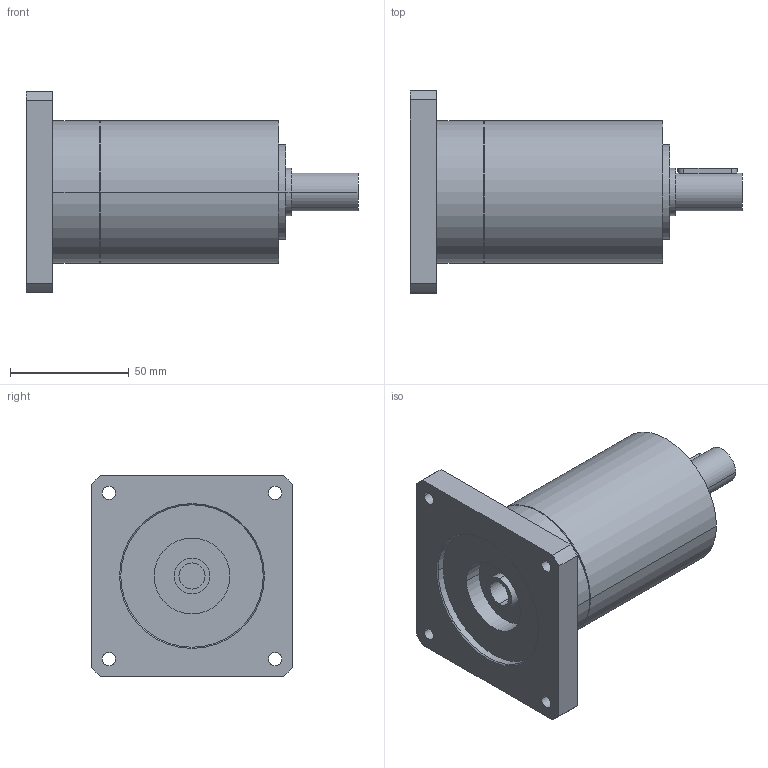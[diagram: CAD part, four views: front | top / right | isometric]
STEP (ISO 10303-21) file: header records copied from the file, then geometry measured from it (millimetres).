
FILE_DESCRIPTION(('CoCreate Modeling STEP Export'),'2;1');
FILE_NAME('GPR75_ig-9-12-16-20-24-30-36_16_B14_11_P33.stp','2014-08-25T16:01:27',(''),(''),'CoCreate Modeling STEP processor for AP214 (Solid Model)','CoCreate Modeling 16.00C 25-Feb-2009 (C) Parametric Technology GmbH','');
FILE_SCHEMA(('AUTOMOTIVE_DESIGN { 1 0 10303 214 1 1 1 1 }'));
Length unit declared in the file: millimetre
Products named in the file (2): GPR75_ig-9-12-16-20-24-30-36_16_B14_11_P33
Assembly tree (1 placements, depth 2):
  GPR75_ig-9-12-16-20-24-30-36_16_B14_11_P33
    GPR75_ig-9-12-16-20-24-30-36_16_B14_11_P33
Bounding box: 139.9 x 85 x 85 mm (x, y, z)
Volume: 340217.2 mm3; surface area: 41842.3 mm2
Topology: 1 solids, 1 shells, 72 faces, 187 edges, 129 vertices
Faces by surface type: cylinder 42, plane 22, cone 8
Entity records: 1954 total; most frequent: ORIENTED_EDGE 370, CARTESIAN_POINT 361, DIRECTION 268, EDGE_CURVE 185, VERTEX_POINT 129, AXIS2_PLACEMENT_3D 100, EDGE_LOOP 94, FACE_OUTER_BOUND 72
